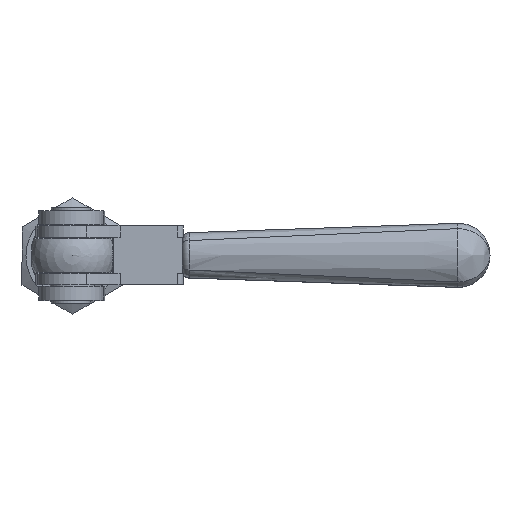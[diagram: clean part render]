
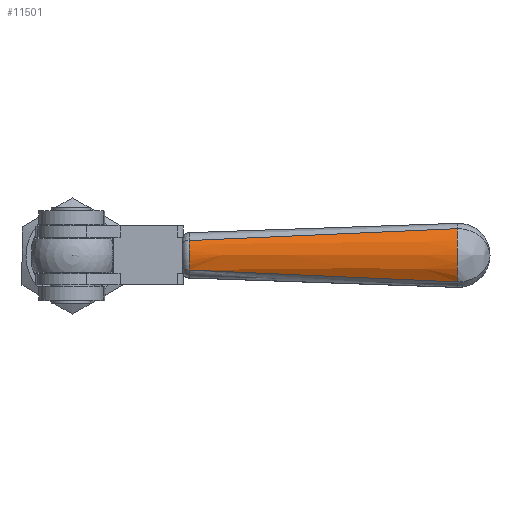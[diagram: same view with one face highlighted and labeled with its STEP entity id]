
A CAD part, top view. The second image highlights one B-rep face of the part: STEP entity #11501.
In plain terms, the highlighted conical face has half-angle 1.988 degrees and reference radius 13.909 mm.
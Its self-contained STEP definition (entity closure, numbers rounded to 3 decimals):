
#11158=CARTESIAN_POINT('',(137.48,9.518,160.958));
#11159=VERTEX_POINT('',#11158);
#11160=CARTESIAN_POINT('',(137.48,-9.518,160.958));
#11161=VERTEX_POINT('',#11160);
#11162=CARTESIAN_POINT('',(137.29,0.,148.843));
#11163=DIRECTION('',(1.,0.,-0.016));
#11164=DIRECTION('',(0.016,0.,1.));
#11165=AXIS2_PLACEMENT_3D('',#11162,#11163,#11164);
#11166=CIRCLE('',#11165,15.408);
#11167=EDGE_CURVE('',#11159,#11161,#11166,.T.);
#11318=CARTESIAN_POINT('',(41.719,-5.264,161.223));
#11319=VERTEX_POINT('',#11318);
#11336=CARTESIAN_POINT('',(137.48,-9.518,160.958));
#11337=CARTESIAN_POINT('',(105.559,-8.197,161.088));
#11338=CARTESIAN_POINT('',(73.639,-6.824,161.197));
#11339=CARTESIAN_POINT('',(41.719,-5.264,161.223));
#11340=B_SPLINE_CURVE_WITH_KNOTS('',3,(#11336,#11337,#11338,#11339),.UNSPECIFIED.,.F.,.U.,(4,4),(-10.325,-0.742),.UNSPECIFIED.);
#11341=EDGE_CURVE('',#11161,#11319,#11340,.T.);
#11476=CARTESIAN_POINT('',(94.128,0.,149.521));
#11477=DIRECTION('',(1.,0.,-0.016));
#11478=DIRECTION('',(0.0,1.0,0.0));
#11479=AXIS2_PLACEMENT_3D('',#11476,#11477,#11478);
#11480=CONICAL_SURFACE('',#11479,13.909,1.988);
#11481=CARTESIAN_POINT('',(41.719,5.264,161.223));
#11482=VERTEX_POINT('',#11481);
#11483=CARTESIAN_POINT('',(41.548,0.,150.347));
#11484=DIRECTION('',(-1.,0.,0.016));
#11485=DIRECTION('',(0.016,0.,1.));
#11486=AXIS2_PLACEMENT_3D('',#11483,#11484,#11485);
#11487=CIRCLE('',#11486,12.084);
#11488=EDGE_CURVE('',#11319,#11482,#11487,.T.);
#11489=ORIENTED_EDGE('',*,*,#11488,.F.);
#11490=ORIENTED_EDGE('',*,*,#11341,.F.);
#11491=ORIENTED_EDGE('',*,*,#11167,.F.);
#11492=CARTESIAN_POINT('',(41.719,5.264,161.223));
#11493=CARTESIAN_POINT('',(73.639,6.824,161.197));
#11494=CARTESIAN_POINT('',(105.559,8.197,161.088));
#11495=CARTESIAN_POINT('',(137.48,9.518,160.958));
#11496=B_SPLINE_CURVE_WITH_KNOTS('',3,(#11492,#11493,#11494,#11495),.UNSPECIFIED.,.F.,.U.,(4,4),(-9.583,0.0),.UNSPECIFIED.);
#11497=EDGE_CURVE('',#11482,#11159,#11496,.T.);
#11498=ORIENTED_EDGE('',*,*,#11497,.F.);
#11499=EDGE_LOOP('',(#11489,#11490,#11491,#11498));
#11500=FACE_OUTER_BOUND('',#11499,.T.);
#11501=ADVANCED_FACE('',(#11500),#11480,.T.);
